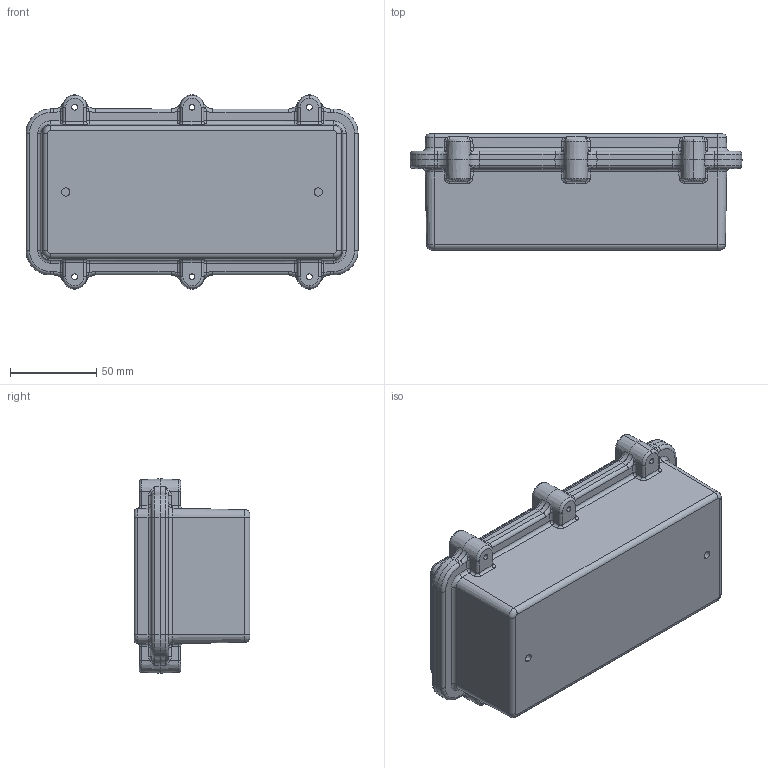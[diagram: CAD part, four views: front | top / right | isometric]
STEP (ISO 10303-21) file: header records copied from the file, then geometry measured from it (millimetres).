
FILE_DESCRIPTION (( 'STEP AP203' ), '1' );
FILE_NAME ('SE-542-0-0.STEP', '2018-09-29T12:56:42', ( '' ), ( '' ), 'SwSTEP 2.0', 'SolidWorks 2018', '' );
FILE_SCHEMA (( 'CONFIG_CONTROL_DESIGN' ));
Length unit declared in the file: millimetre
Products named in the file (3): SE-542-0-0; SE-542-P-1; SE-526-P-2
Assembly tree (2 placements, depth 2):
  SE-542-0-0
    SE-542-P-1
    SE-526-P-2
Bounding box: 192 x 67 x 112.3 mm (x, y, z)
Volume: 209840.4 mm3; surface area: 150250.7 mm2
Topology: 2 solids, 2 shells, 932 faces, 2226 edges, 1302 vertices
Faces by surface type: cylinder 332, bspline 212, plane 204, cone 100, torus 84
Entity records: 32853 total; most frequent: CARTESIAN_POINT 12485, ORIENTED_EDGE 4404, DIRECTION 4070, EDGE_CURVE 2202, AXIS2_PLACEMENT_3D 1591, VERTEX_POINT 1302, EDGE_LOOP 984, FACE_OUTER_BOUND 932
